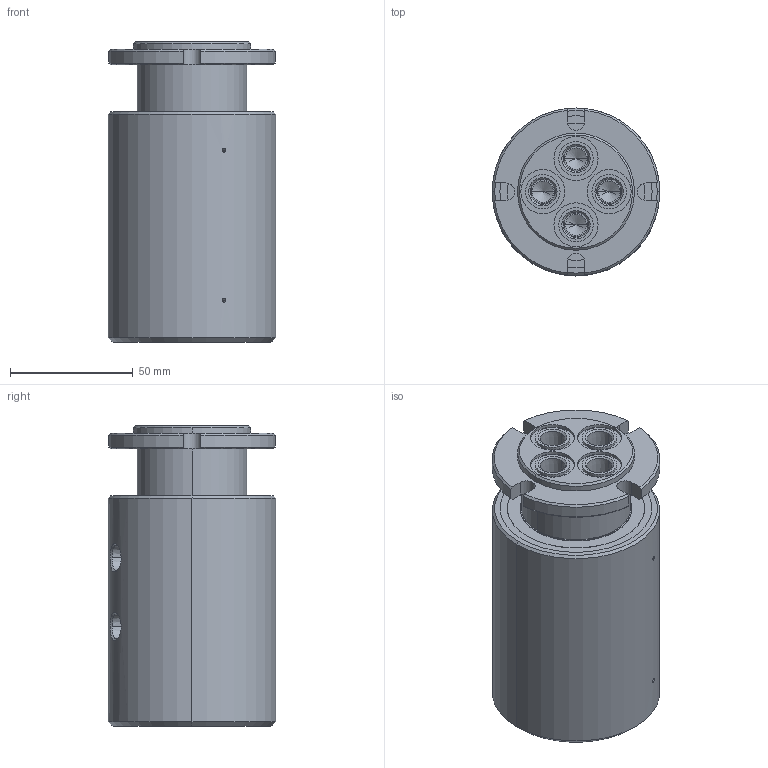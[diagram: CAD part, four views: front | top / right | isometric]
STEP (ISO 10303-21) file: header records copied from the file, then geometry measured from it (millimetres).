
FILE_DESCRIPTION (( 'STEP AP214' ), '1' );
FILE_NAME ('GP(M)-140.STEP', '2013-02-05T22:05:15', ( '' ), ( '' ), 'SwSTEP 2.0', 'SolidWorks 2011', '' );
FILE_SCHEMA (( 'AUTOMOTIVE_DESIGN' ));
Length unit declared in the file: inch
Products named in the file (1): GP(M)-140
Bounding box: 68.25 x 68.25 x 122.45 mm (x, y, z)
Volume: 384755.7 mm3; surface area: 41267.6 mm2
Topology: 1 solids, 1 shells, 204 faces, 482 edges, 294 vertices
Faces by surface type: cylinder 85, cone 66, plane 43, bspline 8, torus 2
Entity records: 6764 total; most frequent: CARTESIAN_POINT 1793, DIRECTION 1010, ORIENTED_EDGE 908, EDGE_CURVE 454, AXIS2_PLACEMENT_3D 415, VERTEX_POINT 294, EDGE_LOOP 246, CIRCLE 218
